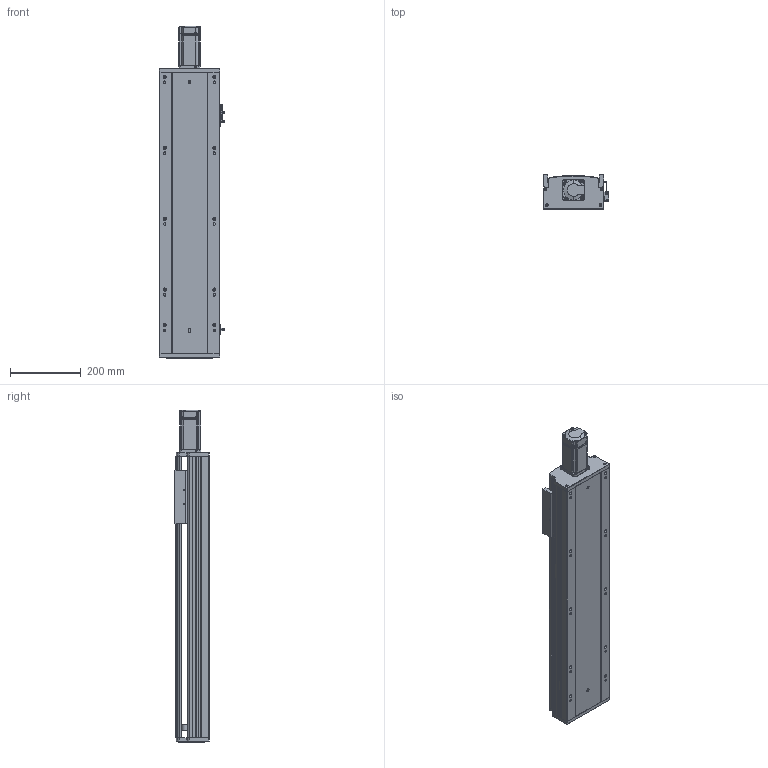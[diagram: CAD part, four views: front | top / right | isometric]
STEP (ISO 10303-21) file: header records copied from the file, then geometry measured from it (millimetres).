
FILE_DESCRIPTION (( 'STEP AP203' ), '1' );
FILE_NAME ('RY170Q-L2020-400-MK.SLDASM_0550.step', '2021-05-31T02:02:30', ( '盈信电脑' ), ( '东莞市道滘镇水果街19号' ), 'SwSTEP 2.0', 'SolidWorks 2016', '' );
FILE_SCHEMA (( 'CONFIG_CONTROL_DESIGN' ));
Length unit declared in the file: millimetre
Products named in the file (12): RY170Q-400倰第裔啣-MK_0550; 滅袉蝶18-10; 侂狟400W侜督萇儂; 滅袉蝶18-15; RY170Q臏賑輸20佪裝蹟譫(FK15); RY170Q-400倰第菁釱-MK_0550; RY170外置感应片(200共用）; RY170ヶ醱裔啣; RY170綴裔啣; 15; RY170Q-L2020-400-MK.SLDASM_0550; 覜茼ん672
Assembly tree (14 placements, depth 3):
  RY170Q-L2020-400-MK.SLDASM_0550
    RY170Q-400倰第菁釱-MK_0550
    RY170Q-400倰第裔啣-MK_0550
    RY170Q臏賑輸20佪裝蹟譫(FK15)
    侂狟400W侜督萇儂
      15
    RY170綴裔啣
    覜茼ん672  x3
    RY170外置感应片(200共用）
    RY170ヶ醱裔啣
    滅袉蝶18-15  x2
    滅袉蝶18-10
Bounding box: 183.7 x 97 x 936.5 mm (x, y, z)
Volume: 4334861.2 mm3; surface area: 1379331.8 mm2
Topology: 13 solids, 13 shells, 2130 faces, 6039 edges, 3907 vertices
Faces by surface type: plane 1185, cylinder 755, cone 161, bspline 29
Entity records: 66514 total; most frequent: CARTESIAN_POINT 14433, ORIENTED_EDGE 10858, DIRECTION 10324, EDGE_CURVE 5429, VERTEX_POINT 3575, VECTOR 3556, LINE 3556, AXIS2_PLACEMENT_3D 3384
